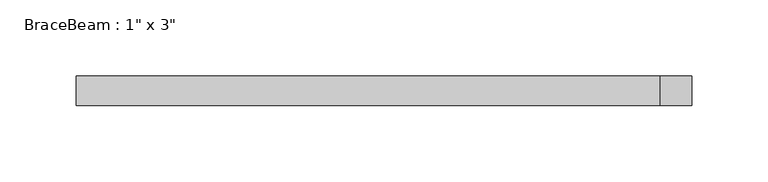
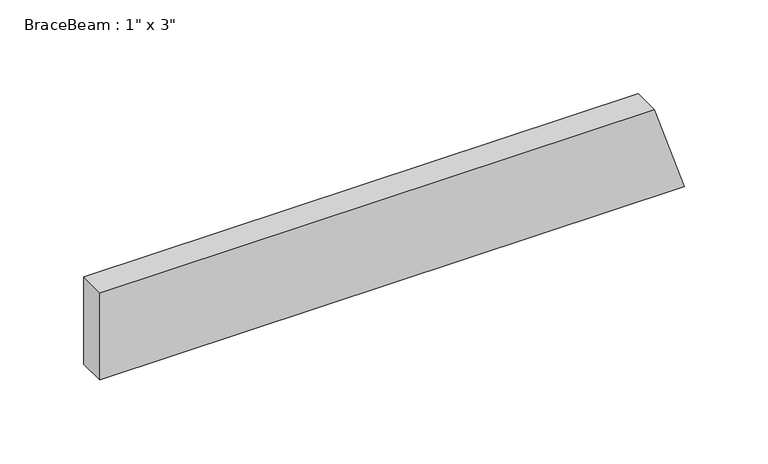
"""IFC4 building model written with IfcOpenShell, lengths in millimetres: beam geometry."""

from ifc_helpers import new_model, si_unit, origin, place, context, project, spatial, faceted_brep, source, transform, mapped, element, save


def beam_a75097df(model_context):
    return source(origin(), model_context, "Body", "Brep", [
        faceted_brep([(-196.7712973, -9.525, -31.75), (-196.7712973, 9.525, -31.75), (205.4857748, 9.525, -31.75), (205.4857748, -9.525, -31.75), (-196.7712973, 9.525, 31.75), (184.7600803, 9.525, 31.75), (195.1229275, 9.525, 0.0), (-196.7712973, -9.525, 31.75), (184.7600803, -9.525, 31.75), (195.1229275, -9.525, 0.0)], [[[0, 1, 2, 3]], [[1, 4, 5, 6, 2]], [[4, 7, 8, 5]], [[7, 0, 3, 9, 8]], [[7, 4, 1, 0]], [[5, 8, 9, 3, 2, 6]]]),
    ])


if __name__ == "__main__":
    model = new_model("IFC4")
    model_context = context("Model", 3, world=origin())
    ifc_project = project(units=[si_unit("LENGTHUNIT", "METRE", prefix="MILLI")], contexts=[model_context])
    site = spatial("IfcSite", under=ifc_project)
    building = spatial("IfcBuilding", under=site)
    placement = place(None, origin())
    beam_shape = beam_a75097df(model_context)
    element("IfcBeam", 1, ObjectType="BraceBeam : 1\" x 3\"", at=placement, inside=building, context=model_context, shape_type="MappedRepresentation", body=[
        mapped(beam_shape, transform((0.0, 0.0, 0.0), x_axis=(1.0, 0.0, 0.0), y_axis=(0.0, 1.0, 0.0), z_axis=(0.0, 0.0, 1.0))),
    ])
    save(model, "model.ifc")
